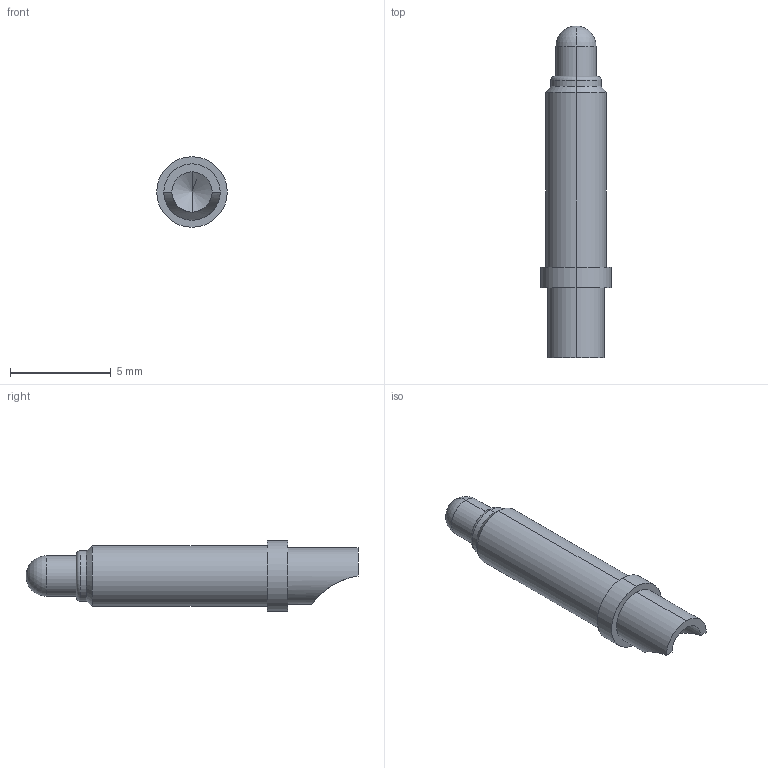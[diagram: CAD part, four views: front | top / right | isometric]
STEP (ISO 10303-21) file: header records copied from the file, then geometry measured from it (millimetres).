
FILE_DESCRIPTION((''),'2;1');
FILE_NAME('PRT0003','2023-06-02T09:16:21',('USER'),(''),'CREO PARAMETRIC BY PTC INC, 2020154','CREO PARAMETRIC BY PTC INC, 2020154','');
FILE_SCHEMA(('CONFIG_CONTROL_DESIGN'));
Length unit declared in the file: millimetre
Products named in the file (1): PRT0003
Bounding box: 3.5 x 16.5 x 3.5 mm (x, y, z)
Volume: 92.5 mm3; surface area: 166 mm2
Topology: 1 solids, 1 shells, 25 faces, 56 edges, 32 vertices
Faces by surface type: cylinder 13, plane 4, cone 4, torus 2, sphere 2
Entity records: 753 total; most frequent: CARTESIAN_POINT 160, DIRECTION 128, ORIENTED_EDGE 104, AXIS2_PLACEMENT_3D 55, EDGE_CURVE 52, VERTEX_POINT 32, CIRCLE 30, EDGE_LOOP 28
